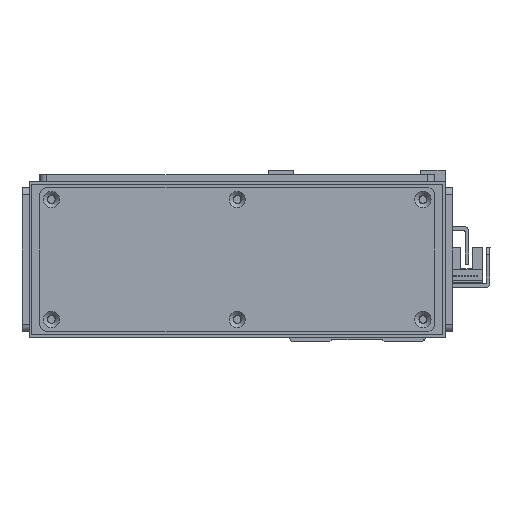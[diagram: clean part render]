
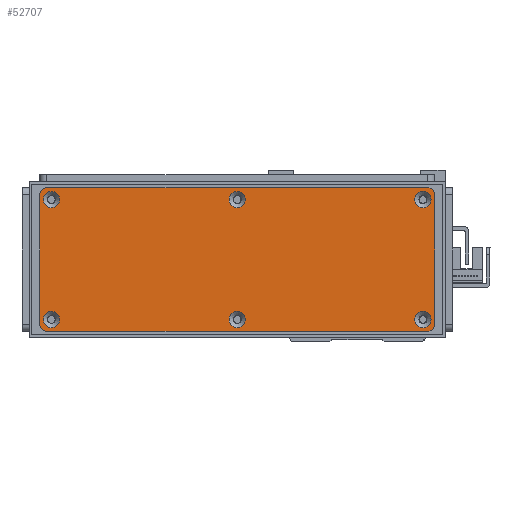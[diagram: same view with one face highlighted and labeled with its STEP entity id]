
A CAD part, left-side view. The second image highlights one B-rep face of the part: STEP entity #52707.
In plain terms, the highlighted planar face has unit normal (-1, 0, 0) as drawn and (0, 0, 1) by its records, which use the part's own axes.
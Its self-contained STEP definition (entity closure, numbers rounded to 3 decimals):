
#917=FACE_BOUND('',#8418,.T.);
#918=FACE_BOUND('',#8419,.T.);
#919=FACE_BOUND('',#8420,.T.);
#920=FACE_BOUND('',#8421,.T.);
#921=FACE_BOUND('',#8422,.T.);
#922=FACE_BOUND('',#8423,.T.);
#2869=PLANE('',#56657);
#5356=FACE_OUTER_BOUND('',#8417,.T.);
#8417=EDGE_LOOP('',(#47648,#47649,#47650,#47651,#47652,#47653,#47654,#47655));
#8418=EDGE_LOOP('',(#47656));
#8419=EDGE_LOOP('',(#47657));
#8420=EDGE_LOOP('',(#47658));
#8421=EDGE_LOOP('',(#47659));
#8422=EDGE_LOOP('',(#47660));
#8423=EDGE_LOOP('',(#47661));
#14486=LINE('',#85010,#20648);
#14489=LINE('',#85018,#20651);
#14492=LINE('',#85026,#20654);
#14495=LINE('',#85033,#20657);
#20648=VECTOR('',#69193,10.);
#20651=VECTOR('',#69202,10.);
#20654=VECTOR('',#69211,10.);
#20657=VECTOR('',#69220,10.);
#22116=CIRCLE('',#56611,3.45);
#22119=CIRCLE('',#56616,3.45);
#22122=CIRCLE('',#56621,3.45);
#22125=CIRCLE('',#56626,3.45);
#22128=CIRCLE('',#56631,3.45);
#22131=CIRCLE('',#56636,3.45);
#22138=CIRCLE('',#56646,3.);
#22139=CIRCLE('',#56649,3.);
#22140=CIRCLE('',#56652,3.);
#22141=CIRCLE('',#56655,3.);
#26753=VERTEX_POINT('',#84926);
#26756=VERTEX_POINT('',#84936);
#26759=VERTEX_POINT('',#84946);
#26762=VERTEX_POINT('',#84956);
#26765=VERTEX_POINT('',#84966);
#26768=VERTEX_POINT('',#84976);
#26779=VERTEX_POINT('',#85003);
#26780=VERTEX_POINT('',#85005);
#26781=VERTEX_POINT('',#85009);
#26782=VERTEX_POINT('',#85013);
#26783=VERTEX_POINT('',#85017);
#26784=VERTEX_POINT('',#85021);
#26785=VERTEX_POINT('',#85025);
#26786=VERTEX_POINT('',#85029);
#33809=EDGE_CURVE('',#26753,#26753,#22116,.T.);
#33814=EDGE_CURVE('',#26756,#26756,#22119,.T.);
#33819=EDGE_CURVE('',#26759,#26759,#22122,.T.);
#33824=EDGE_CURVE('',#26762,#26762,#22125,.T.);
#33829=EDGE_CURVE('',#26765,#26765,#22128,.T.);
#33834=EDGE_CURVE('',#26768,#26768,#22131,.T.);
#33848=EDGE_CURVE('',#26780,#26779,#22138,.T.);
#33850=EDGE_CURVE('',#26781,#26780,#14486,.T.);
#33852=EDGE_CURVE('',#26782,#26781,#22139,.T.);
#33854=EDGE_CURVE('',#26783,#26782,#14489,.T.);
#33856=EDGE_CURVE('',#26784,#26783,#22140,.T.);
#33858=EDGE_CURVE('',#26785,#26784,#14492,.T.);
#33860=EDGE_CURVE('',#26786,#26785,#22141,.T.);
#33862=EDGE_CURVE('',#26779,#26786,#14495,.T.);
#47648=ORIENTED_EDGE('',*,*,#33862,.T.);
#47649=ORIENTED_EDGE('',*,*,#33860,.T.);
#47650=ORIENTED_EDGE('',*,*,#33858,.T.);
#47651=ORIENTED_EDGE('',*,*,#33856,.T.);
#47652=ORIENTED_EDGE('',*,*,#33854,.T.);
#47653=ORIENTED_EDGE('',*,*,#33852,.T.);
#47654=ORIENTED_EDGE('',*,*,#33850,.T.);
#47655=ORIENTED_EDGE('',*,*,#33848,.T.);
#47656=ORIENTED_EDGE('',*,*,#33809,.T.);
#47657=ORIENTED_EDGE('',*,*,#33814,.T.);
#47658=ORIENTED_EDGE('',*,*,#33819,.T.);
#47659=ORIENTED_EDGE('',*,*,#33824,.T.);
#47660=ORIENTED_EDGE('',*,*,#33829,.T.);
#47661=ORIENTED_EDGE('',*,*,#33834,.T.);
#52707=ADVANCED_FACE('',(#5356,#917,#918,#919,#920,#921,#922),#2869,.T.);
#56611=AXIS2_PLACEMENT_3D('',#84927,#69101,#69102);
#56616=AXIS2_PLACEMENT_3D('',#84937,#69113,#69114);
#56621=AXIS2_PLACEMENT_3D('',#84947,#69125,#69126);
#56626=AXIS2_PLACEMENT_3D('',#84957,#69137,#69138);
#56631=AXIS2_PLACEMENT_3D('',#84967,#69149,#69150);
#56636=AXIS2_PLACEMENT_3D('',#84977,#69161,#69162);
#56646=AXIS2_PLACEMENT_3D('',#85006,#69188,#69189);
#56649=AXIS2_PLACEMENT_3D('',#85014,#69197,#69198);
#56652=AXIS2_PLACEMENT_3D('',#85022,#69206,#69207);
#56655=AXIS2_PLACEMENT_3D('',#85030,#69215,#69216);
#56657=AXIS2_PLACEMENT_3D('',#85034,#69221,#69222);
#69101=DIRECTION('center_axis',(0.,0.,-1.));
#69102=DIRECTION('ref_axis',(1.,0.,0.));
#69113=DIRECTION('center_axis',(0.,0.,-1.));
#69114=DIRECTION('ref_axis',(1.,0.,0.));
#69125=DIRECTION('center_axis',(0.,0.,-1.));
#69126=DIRECTION('ref_axis',(1.,0.,0.));
#69137=DIRECTION('center_axis',(0.,0.,-1.));
#69138=DIRECTION('ref_axis',(1.,0.,0.));
#69149=DIRECTION('center_axis',(0.,0.,-1.));
#69150=DIRECTION('ref_axis',(1.,0.,0.));
#69161=DIRECTION('center_axis',(0.,0.,-1.));
#69162=DIRECTION('ref_axis',(1.,0.,0.));
#69188=DIRECTION('center_axis',(0.,0.,1.));
#69189=DIRECTION('ref_axis',(-1.,0.,0.));
#69193=DIRECTION('',(0.,1.,0.));
#69197=DIRECTION('center_axis',(0.,0.,1.));
#69198=DIRECTION('ref_axis',(0.,1.,0.));
#69202=DIRECTION('',(1.,0.,0.));
#69206=DIRECTION('center_axis',(0.,0.,1.));
#69207=DIRECTION('ref_axis',(1.,0.,0.));
#69211=DIRECTION('',(0.,-1.,0.));
#69215=DIRECTION('center_axis',(0.,0.,1.));
#69216=DIRECTION('ref_axis',(0.,-1.,0.));
#69220=DIRECTION('',(-1.,0.,0.));
#69221=DIRECTION('center_axis',(0.,0.,1.));
#69222=DIRECTION('ref_axis',(1.,0.,0.));
#84926=CARTESIAN_POINT('',(-3.45,25.5,1.5));
#84927=CARTESIAN_POINT('Origin',(0.,25.5,1.5));
#84936=CARTESIAN_POINT('',(75.55,-25.5,1.5));
#84937=CARTESIAN_POINT('Origin',(79.,-25.5,1.5));
#84946=CARTESIAN_POINT('',(-82.45,25.5,1.5));
#84947=CARTESIAN_POINT('Origin',(-79.,25.5,1.5));
#84956=CARTESIAN_POINT('',(75.55,25.5,1.5));
#84957=CARTESIAN_POINT('Origin',(79.,25.5,1.5));
#84966=CARTESIAN_POINT('',(-82.45,-25.5,1.5));
#84967=CARTESIAN_POINT('Origin',(-79.,-25.5,1.5));
#84976=CARTESIAN_POINT('',(-3.45,-25.5,1.5));
#84977=CARTESIAN_POINT('Origin',(0.,-25.5,1.5));
#85003=CARTESIAN_POINT('',(81.,30.5,1.5));
#85005=CARTESIAN_POINT('',(84.,27.5,1.5));
#85006=CARTESIAN_POINT('Origin',(81.,27.5,1.5));
#85009=CARTESIAN_POINT('',(84.,-27.5,1.5));
#85010=CARTESIAN_POINT('',(84.,27.5,1.5));
#85013=CARTESIAN_POINT('',(81.,-30.5,1.5));
#85014=CARTESIAN_POINT('Origin',(81.,-27.5,1.5));
#85017=CARTESIAN_POINT('',(-81.,-30.5,1.5));
#85018=CARTESIAN_POINT('',(81.,-30.5,1.5));
#85021=CARTESIAN_POINT('',(-84.,-27.5,1.5));
#85022=CARTESIAN_POINT('Origin',(-81.,-27.5,1.5));
#85025=CARTESIAN_POINT('',(-84.,27.5,1.5));
#85026=CARTESIAN_POINT('',(-84.,-27.5,1.5));
#85029=CARTESIAN_POINT('',(-81.,30.5,1.5));
#85030=CARTESIAN_POINT('Origin',(-81.,27.5,1.5));
#85033=CARTESIAN_POINT('',(-81.,30.5,1.5));
#85034=CARTESIAN_POINT('Origin',(0.,0.,
1.5));
